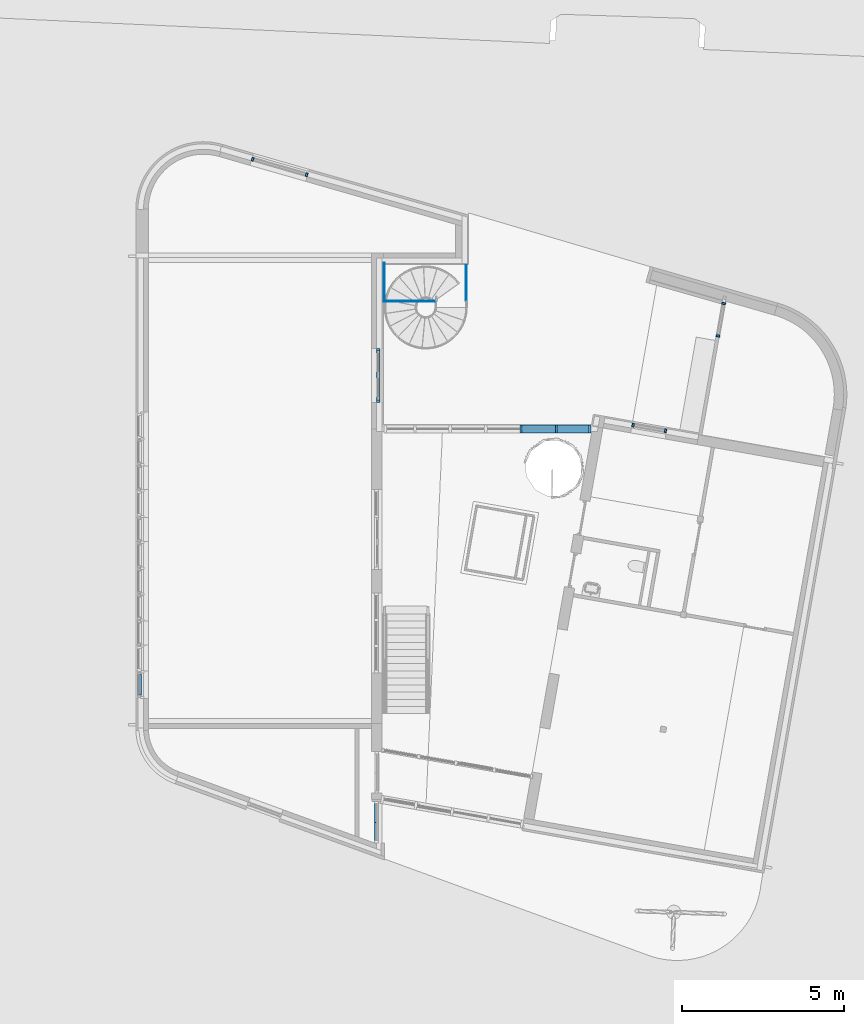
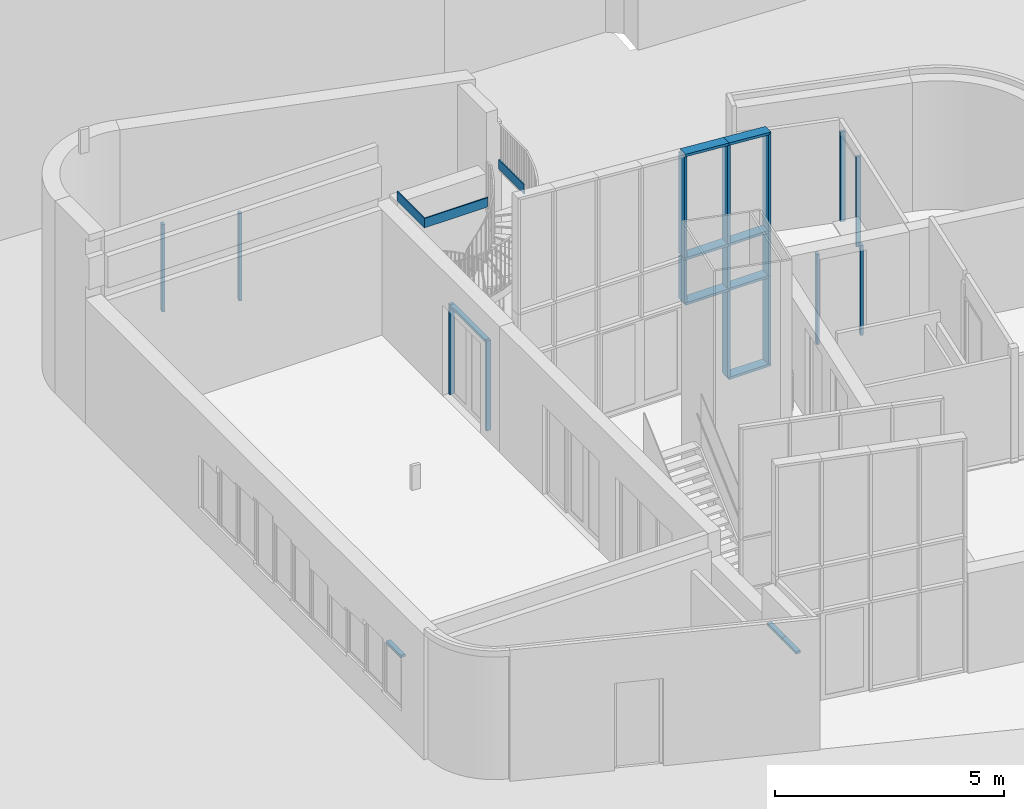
# One storey, part 6 of 21: 30 members, 8 elements without a shape of their own.
"""IFC2X3 building model written with IfcOpenShell, lengths in millimetres."""

from ifc_helpers import new_model, entity, si_unit, converted_unit, derived_unit, direction, frame, frame_2d, origin, origin_2d_with_axis, place, context, subcontext, project, spatial, polyline, rectangle, outline, extrude, clip, halfspace, bounded_halfspace, source, transform, mapped, material, type_object, type_shapes, element, aggregate, save


model = new_model("IFC2X3")

# Units and contexts
model_context = context("Model", 3, precision=0.01, world=origin(), true_north=direction((6.12303176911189e-17, 1.0)))
body_context = subcontext(model_context, "Body", "Model", "MODEL_VIEW")
ifc_project = project(units=[si_unit("LENGTHUNIT", "METRE", prefix="MILLI"), si_unit("AREAUNIT", "SQUARE_METRE"), si_unit("VOLUMEUNIT", "CUBIC_METRE"), converted_unit("PLANEANGLEUNIT", "DEGREE", entity("IfcRatioMeasure", 0.0174532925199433), si_unit("PLANEANGLEUNIT", "RADIAN"), dimensions=[0, 0, 0, 0, 0, 0, 0]), si_unit("MASSUNIT", "GRAM", prefix="KILO"), derived_unit("MASSDENSITYUNIT", [(si_unit("MASSUNIT", "GRAM", prefix="KILO"), 1), (si_unit("LENGTHUNIT", "METRE"), -3)]), derived_unit("MOMENTOFINERTIAUNIT", [(si_unit("LENGTHUNIT", "METRE"), 4)]), si_unit("TIMEUNIT", "SECOND"), si_unit("FREQUENCYUNIT", "HERTZ"), si_unit("THERMODYNAMICTEMPERATUREUNIT", "DEGREE_CELSIUS"), derived_unit("THERMALTRANSMITTANCEUNIT", [(si_unit("MASSUNIT", "GRAM", prefix="KILO"), 1), (si_unit("THERMODYNAMICTEMPERATUREUNIT", "KELVIN"), -1), (si_unit("TIMEUNIT", "SECOND"), -3)]), derived_unit("VOLUMETRICFLOWRATEUNIT", [(si_unit("LENGTHUNIT", "METRE"), 3), (si_unit("TIMEUNIT", "SECOND"), -1)]), si_unit("ELECTRICCURRENTUNIT", "AMPERE"), si_unit("ELECTRICVOLTAGEUNIT", "VOLT"), si_unit("POWERUNIT", "WATT"), si_unit("FORCEUNIT", "NEWTON", prefix="KILO"), si_unit("ILLUMINANCEUNIT", "LUX"), si_unit("LUMINOUSFLUXUNIT", "LUMEN"), si_unit("LUMINOUSINTENSITYUNIT", "CANDELA"), derived_unit("USERDEFINED", [(si_unit("MASSUNIT", "GRAM", prefix="KILO"), -1), (si_unit("LENGTHUNIT", "METRE"), -2), (si_unit("TIMEUNIT", "SECOND"), 3), (si_unit("LUMINOUSFLUXUNIT", "LUMEN"), 1)]), derived_unit("LINEARVELOCITYUNIT", [(si_unit("LENGTHUNIT", "METRE"), 1), (si_unit("TIMEUNIT", "SECOND"), -1)]), si_unit("PRESSUREUNIT", "PASCAL"), derived_unit("USERDEFINED", [(si_unit("LENGTHUNIT", "METRE"), -2), (si_unit("MASSUNIT", "GRAM", prefix="KILO"), 1), (si_unit("TIMEUNIT", "SECOND"), -2)]), derived_unit("LINEARFORCEUNIT", [(si_unit("MASSUNIT", "GRAM", prefix="KILO"), 1), (si_unit("LENGTHUNIT", "METRE"), 1), (si_unit("TIMEUNIT", "SECOND"), -2), (si_unit("LENGTHUNIT", "METRE"), -1)]), derived_unit("PLANARFORCEUNIT", [(si_unit("MASSUNIT", "GRAM", prefix="KILO"), 1), (si_unit("LENGTHUNIT", "METRE"), 1), (si_unit("TIMEUNIT", "SECOND"), -2), (si_unit("LENGTHUNIT", "METRE"), -2)])], contexts=[model_context])

# Site, building, storey
site_placement = place(None, origin())
site = spatial("IfcSite", under=ifc_project, at=site_placement, Name="<Kadaster Gemeente>;<Kadaster nummer>;<Kadaster sectie>", CompositionType="ELEMENT")
building_placement = place(site_placement, origin())
building = spatial("IfcBuilding", under=site, at=building_placement, Name="JRCZ Middelburg", CompositionType="ELEMENT")
storey_placement = place(building_placement, origin())
storey = spatial("IfcBuildingStorey", under=building, at=storey_placement, Name="00 begane grond", CompositionType="ELEMENT", Elevation=0.0)

# Curtain wall, members
curtain_wall_type_1 = type_object("IfcCurtainWallType", Name="Curtain Wall:Vliesgevel C", PredefinedType="NOTDEFINED")
curtain_wall_1_placement = place(storey_placement, origin())
curtain_wall_1 = element("IfcCurtainWall", 1, at=curtain_wall_1_placement, inside=storey, type_object=curtain_wall_type_1, Name="Curtain Wall:Vliesgevel C", ObjectType="Curtain Wall:Vliesgevel C")
ifc_material_1 = material(Name="RBM_a_kozijn licht")
member_type_1 = type_object("IfcMemberType", Name="Rectangular Mullion:31_CWM_067x114 vliesgevel", PredefinedType="MULLION", material=ifc_material_1)
shared_shape_1 = source(origin(), body_context, "Body", "SweptSolid", [
    extrude(rectangle(XDim=250.0, YDim=67.0, at=origin_2d_with_axis()), frame((0.0, -57.0, -2299.5), z_axis=(0.0, 0.0, 1.0), x_axis=(0.0, -1.0, 0.0)), (0.0, 0.0, 1.0), 2299.5),
])
type_shapes(member_type_1, [shared_shape_1])
member_1_placement = place(storey_placement, frame((22765.3380294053, 19046.62338787, 67.0), z_axis=(0.0, 0.0, -1.0), x_axis=(1.0, 0.0, 0.0)))
member_1 = element("IfcMember", 2, at=member_1_placement, type_object=member_type_1, material=ifc_material_1, Name="Rectangular Mullion:31_CWM_067x114 vliesgevel", ObjectType="Rectangular Mullion:31_CWM_067x114 vliesgevel", context=body_context, shape_type="MappedRepresentation", body=[
    mapped(shared_shape_1, transform((0.0, 0.0, 0.0), scale=1.0)),
])
member_type_2 = type_object("IfcMemberType", Name="Rectangular Mullion:31_CWM_067x114 vliesgevel", PredefinedType="MULLION", material=ifc_material_1)
shared_shape_2 = source(origin(), body_context, "Body", "SweptSolid", [
    extrude(rectangle(XDim=250.0, YDim=67.0, at=origin_2d_with_axis()), frame((-33.5, -57.0, -1200.0), z_axis=(0.0, 0.0, 1.0), x_axis=(0.0, -1.0, 0.0)), (0.0, 0.0, 1.0), 1200.0),
])
type_shapes(member_type_2, [shared_shape_2])
member_2_placement = place(storey_placement, frame((23824.9418785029, 19046.62338787, 2400.0), z_axis=(0.0, 0.0, -1.0), x_axis=(1.0, 0.0, 0.0)))
member_2 = element("IfcMember", 3, at=member_2_placement, type_object=member_type_2, material=ifc_material_1, Name="Rectangular Mullion:31_CWM_067x114 vliesgevel", ObjectType="Rectangular Mullion:31_CWM_067x114 vliesgevel", context=body_context, shape_type="MappedRepresentation", body=[
    mapped(shared_shape_2, transform((0.0, 0.0, 0.0), scale=1.0)),
])
member_type_3 = type_object("IfcMemberType", Name="Rectangular Mullion:31_CWM_067x114 vliesgevel", PredefinedType="MULLION", material=ifc_material_1)
shared_shape_3 = source(origin(), body_context, "Body", "SweptSolid", [
    extrude(rectangle(XDim=250.0, YDim=67.0, at=origin_2d_with_axis()), frame((0.0, -57.0, -1133.0), z_axis=(0.0, 0.0, 1.0), x_axis=(0.0, -1.0, 0.0)), (0.0, 0.0, 1.0), 1133.0),
])
type_shapes(member_type_3, [shared_shape_3])
member_3_placement = place(storey_placement, frame((21670.6109307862, 19046.62338787, 2433.5), z_axis=(0.0, 0.0, -1.0), x_axis=(1.0, 0.0, 0.0)))
member_3 = element("IfcMember", 4, at=member_3_placement, type_object=member_type_3, material=ifc_material_1, Name="Rectangular Mullion:31_CWM_067x114 vliesgevel", ObjectType="Rectangular Mullion:31_CWM_067x114 vliesgevel", context=body_context, shape_type="MappedRepresentation", body=[
    mapped(shared_shape_3, transform((0.0, 0.0, 0.0), scale=1.0)),
])
member_4_placement = place(storey_placement, frame((22765.3380294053, 19046.62338787, 2433.5), z_axis=(0.0, 0.0, -1.0), x_axis=(1.0, 0.0, 0.0)))
member_4 = element("IfcMember", 5, at=member_4_placement, type_object=member_type_3, material=ifc_material_1, Name="Rectangular Mullion:31_CWM_067x114 vliesgevel", ObjectType="Rectangular Mullion:31_CWM_067x114 vliesgevel", context=body_context, shape_type="MappedRepresentation", body=[
    mapped(shared_shape_3, transform((0.0, 0.0, 0.0), scale=1.0)),
])

curtain_wall_type_2 = type_object("IfcCurtainWallType", Name="Curtain Wall:NLRS_31_CW_Ontwerpkozijn 067x114", PredefinedType="NOTDEFINED")
curtain_wall_2_placement = place(storey_placement, origin())
curtain_wall_2 = element("IfcCurtainWall", 6, at=curtain_wall_2_placement, inside=storey, type_object=curtain_wall_type_2, Name="Curtain Wall:NLRS_31_CW_Ontwerpkozijn 067x114", ObjectType="Curtain Wall:NLRS_31_CW_Ontwerpkozijn 067x114")
ifc_material_2 = material(Name="RBM_a_kozijn")
member_type_4 = type_object("IfcMemberType", Name="Rectangular Mullion:31_CWM_067x114", PredefinedType="MULLION", material=ifc_material_2)
shared_shape_4 = source(origin(), body_context, "Body", "SweptSolid", [
    extrude(rectangle(XDim=113.999999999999, YDim=67.0, at=origin_2d_with_axis()), frame((-33.5, -57.0, -1533.0), z_axis=(0.0, 0.0, 1.0), x_axis=(0.0, -1.0, 0.0)), (0.0, 0.0, 1.0), 1533.0),
])
type_shapes(member_type_4, [shared_shape_4])
member_5_placement = place(storey_placement, frame((17200.0, 19997.0106983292, 2400.0), z_axis=(0.0, -1.0, 0.0), x_axis=(0.0, 0.0, 1.0)))
member_5 = element("IfcMember", 7, at=member_5_placement, type_object=member_type_4, material=ifc_material_2, Name="Rectangular Mullion:31_CWM_067x114", ObjectType="Rectangular Mullion:31_CWM_067x114", context=body_context, shape_type="MappedRepresentation", body=[
    mapped(shared_shape_4, transform((0.0, 0.0, 0.0), scale=1.0)),
])
member_type_5 = type_object("IfcMemberType", Name="Rectangular Mullion:31_CWM_067x114", PredefinedType="MULLION", material=ifc_material_2)
shared_shape_5 = source(origin(), body_context, "Body", "SweptSolid", [
    extrude(rectangle(XDim=113.999999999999, YDim=67.0, at=frame_2d((1.06581410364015e-14, 0.0), x_axis=(1.0, 0.0))), frame((-33.5, -57.0, -2400.0), z_axis=(0.0, 0.0, 1.0), x_axis=(0.0, -1.0, 0.0)), (0.0, 0.0, 1.0), 2400.0),
])
type_shapes(member_type_5, [shared_shape_5])
member_6_placement = place(storey_placement, frame((17200.0, 19930.0106983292, 0.0), z_axis=(0.0, 0.0, -1.0), x_axis=(0.0, -1.0, 0.0)))
member_6 = element("IfcMember", 8, at=member_6_placement, type_object=member_type_5, material=ifc_material_2, Name="Rectangular Mullion:31_CWM_067x114", ObjectType="Rectangular Mullion:31_CWM_067x114", context=body_context, shape_type="MappedRepresentation", body=[
    mapped(shared_shape_5, transform((0.0, 0.0, 0.0), scale=1.0)),
])
member_type_6 = type_object("IfcMemberType", Name="Rectangular Mullion:31_CWM_067x114", PredefinedType="MULLION", material=ifc_material_2)
shared_shape_6 = source(origin(), body_context, "Body", "SweptSolid", [
    extrude(rectangle(XDim=113.999999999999, YDim=67.0, at=frame_2d((1.06581410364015e-14, 0.0), x_axis=(1.0, 0.0))), frame((-33.5, -57.0, -2400.0), z_axis=(0.0, 0.0, 1.0), x_axis=(0.0, -1.0, 0.0)), (0.0, 0.0, 1.0), 2400.0),
])
type_shapes(member_type_6, [shared_shape_6])
member_7_placement = place(storey_placement, frame((17200.0, 21597.0106983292, 2400.0), z_axis=(0.0, 0.0, 1.0), x_axis=(0.0, 1.0, 0.0)))
member_7 = element("IfcMember", 9, at=member_7_placement, type_object=member_type_6, material=ifc_material_2, Name="Rectangular Mullion:31_CWM_067x114", ObjectType="Rectangular Mullion:31_CWM_067x114", context=body_context, shape_type="MappedRepresentation", body=[
    mapped(shared_shape_6, transform((0.0, 0.0, 0.0), scale=1.0)),
])
aggregate(curtain_wall_2, [member_5, member_6, member_7])

curtain_wall_type_3 = type_object("IfcCurtainWallType", Name="Curtain Wall:NLRS_32_CW_067x114", PredefinedType="NOTDEFINED")
curtain_wall_3_placement = place(storey_placement, origin())
curtain_wall_3 = element("IfcCurtainWall", 10, at=curtain_wall_3_placement, inside=storey, type_object=curtain_wall_type_3, Name="Curtain Wall:NLRS_32_CW_067x114", ObjectType="Curtain Wall:NLRS_32_CW_067x114")
ifc_material_3 = material(Name="RBM_i2_binnenkozijn")
member_type_7 = type_object("IfcMemberType", Name="Rectangular Mullion:32_CWM_067x114", PredefinedType="MULLION", material=ifc_material_3)
shared_shape_7 = source(origin(), body_context, "Body", "SweptSolid", [
    extrude(rectangle(XDim=113.999999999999, YDim=67.0, at=origin_2d_with_axis()), frame((-33.5, 0.0, -655.450461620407), z_axis=(0.0, 0.0, 1.0), x_axis=(0.0, -1.0, 0.0)), (0.0, 0.0, 1.0), 655.450461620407),
])
type_shapes(member_type_7, [shared_shape_7])
member_8_placement = place(storey_placement, frame((17200.0, 7591.96216345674, 2400.0), z_axis=(0.0, 1.0, 0.0), x_axis=(0.0, 0.0, 1.0)))
member_8 = element("IfcMember", 11, at=member_8_placement, type_object=member_type_7, material=ifc_material_3, Name="Rectangular Mullion:32_CWM_067x114", ObjectType="Rectangular Mullion:32_CWM_067x114", context=body_context, shape_type="MappedRepresentation", body=[
    mapped(shared_shape_7, transform((0.0, 0.0, 0.0), scale=1.0)),
])
member_type_8 = type_object("IfcMemberType", Name="Rectangular Mullion:32_CWM_067x114", PredefinedType="MULLION", material=ifc_material_3)
shared_shape_8 = source(origin(), body_context, "Body", "SweptSolid", [
    extrude(rectangle(XDim=113.999999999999, YDim=67.0, at=origin_2d_with_axis()), frame((-33.5, 0.0, -624.549538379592), z_axis=(0.0, 0.0, 1.0), x_axis=(0.0, -1.0, 0.0)), (0.0, 0.0, 1.0), 624.549538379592),
])
type_shapes(member_type_8, [shared_shape_8])
member_9_placement = place(storey_placement, frame((17200.0, 6936.51170183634, 2400.0), z_axis=(0.0, 1.0, 0.0), x_axis=(0.0, 0.0, 1.0)))
member_9 = element("IfcMember", 12, at=member_9_placement, type_object=member_type_8, material=ifc_material_3, Name="Rectangular Mullion:32_CWM_067x114", ObjectType="Rectangular Mullion:32_CWM_067x114", context=body_context, shape_type="MappedRepresentation", body=[
    mapped(shared_shape_8, transform((0.0, 0.0, 0.0), scale=1.0)),
])
aggregate(curtain_wall_3, [member_8, member_9])

curtain_wall_4_placement = place(storey_placement, origin())
curtain_wall_4 = element("IfcCurtainWall", 13, at=curtain_wall_4_placement, inside=storey, type_object=curtain_wall_type_2, Name="Curtain Wall:NLRS_31_CW_Ontwerpkozijn 067x114", ObjectType="Curtain Wall:NLRS_31_CW_Ontwerpkozijn 067x114")
member_type_9 = type_object("IfcMemberType", Name="Rectangular Mullion:31_CWM_067x114", PredefinedType="MULLION", material=ifc_material_2)
shared_shape_9 = source(origin(), body_context, "Body", "SweptSolid", [
    extrude(rectangle(XDim=113.999999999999, YDim=67.0, at=frame_2d((1.06581410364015e-14, 0.0), x_axis=(1.0, 0.0))), frame((-33.5, -57.0, -2333.0), z_axis=(0.0, 0.0, 1.0), x_axis=(0.0, -1.0, 0.0)), (0.0, 0.0, 1.0), 2333.0),
])
type_shapes(member_type_9, [shared_shape_9])
member_10_placement = place(storey_placement, frame((15057.0718816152, 26902.0542574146, 0.0), z_axis=(0.0, 0.0, -1.0), x_axis=(0.961261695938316, -0.27563735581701, 0.0)))
member_10 = element("IfcMember", 14, at=member_10_placement, type_object=member_type_9, material=ifc_material_2, Name="Rectangular Mullion:31_CWM_067x114", ObjectType="Rectangular Mullion:31_CWM_067x114", context=body_context, shape_type="MappedRepresentation", body=[
    mapped(shared_shape_9, transform((0.0, 0.0, 0.0), scale=1.0)),
])
member_type_10 = type_object("IfcMemberType", Name="Rectangular Mullion:31_CWM_067x114", PredefinedType="MULLION", material=ifc_material_2)
shared_shape_10 = source(origin(), body_context, "Body", "SweptSolid", [
    extrude(rectangle(XDim=113.999999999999, YDim=67.0, at=origin_2d_with_axis()), frame((-33.5, -57.0, -2333.0), z_axis=(0.0, 0.0, 1.0), x_axis=(0.0, -1.0, 0.0)), (0.0, 0.0, 1.0), 2333.0),
])
type_shapes(member_type_10, [shared_shape_10])
member_11_placement = place(storey_placement, frame((13326.8008289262, 27398.2014978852, 2333.0), z_axis=(0.0, 0.0, 1.0), x_axis=(-0.961261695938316, 0.27563735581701, 0.0)))
member_11 = element("IfcMember", 15, at=member_11_placement, type_object=member_type_10, material=ifc_material_2, Name="Rectangular Mullion:31_CWM_067x114", ObjectType="Rectangular Mullion:31_CWM_067x114", context=body_context, shape_type="MappedRepresentation", body=[
    mapped(shared_shape_10, transform((0.0, 0.0, 0.0), scale=1.0)),
])
aggregate(curtain_wall_4, [member_10, member_11])

# Stair, members
stair_placement = place(storey_placement, origin())
stair = element("IfcStair", 16, at=stair_placement, inside=storey, Name="Assembled Stair:Stair", ObjectType="Assembled Stair:Vluchttrap", ShapeType="SPIRAL_STAIR")
ifc_material_4 = material(Name="<Unnamed>")
member_type_11 = type_object("IfcMemberType", Name="Stringer:Stringer - vluchttrap", PredefinedType="STRINGER")
member_12_placement = place(stair_placement, origin())
member_12 = element("IfcMember", 17, at=member_12_placement, type_object=member_type_11, material=ifc_material_4, Name="Assembled Stair:Stair:2451970 Stringer 4", ObjectType="Stringer:Stringer - vluchttrap", context=body_context, shape_type="SweptSolid", body=[
    extrude(outline(polyline([(-595.593929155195, -15.0), (610.593929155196, -15.0), (580.593929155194, 15.0), (-595.593929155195, 15.0), (-595.593929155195, -15.0)])), frame((17447.0, 23654.4060708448, 3450.0), z_axis=(0.0, 0.0, 1.0), x_axis=(0.0, -1.0, 0.0)), (0.0, 0.0, 1.0), 250.0),
])
member_13_placement = place(stair_placement, origin())
member_13 = element("IfcMember", 18, at=member_13_placement, type_object=member_type_11, material=ifc_material_4, Name="Assembled Stair:Stair:2451970 Stringer 5", ObjectType="Stringer:Stringer - vluchttrap", context=body_context, shape_type="SweptSolid", body=[
    extrude(outline(polyline([(-812.834802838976, -15.0), (782.834802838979, -15.0), (812.834802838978, 15.0), (-782.834802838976, 15.0), (-812.834802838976, -15.0)])), frame((18244.8348028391, 23058.8121416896, 3450.0)), (0.0, 0.0, 1.0), 250.0),
])
member_14_placement = place(stair_placement, origin())
member_14 = element("IfcMember", 19, at=member_14_placement, type_object=member_type_11, material=ifc_material_4, Name="Assembled Stair:Stair:2451970 Stringer 7", ObjectType="Stringer:Stringer - vluchttrap", context=body_context, shape_type="SweptSolid", body=[
    extrude(rectangle(XDim=1110.18785831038, YDim=30.0000000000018, at=frame_2d((2.1600499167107e-12, 0.0), x_axis=(1.0, 0.0))), frame((19972.6696056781, 23628.9060708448, 3450.0), z_axis=(0.0, 0.0, 1.0), x_axis=(0.0, 1.0, 0.0)), (0.0, 0.0, 1.0), 250.0),
])
aggregate(stair, [member_12, member_13, member_14])

# Curtain wall, member
curtain_wall_type_4 = type_object("IfcCurtainWallType", Name="Curtain Wall:NLRS_31_CW_Ontwerpkozijn 067x114 2", PredefinedType="NOTDEFINED")
curtain_wall_5_placement = place(storey_placement, origin())
curtain_wall_5 = element("IfcCurtainWall", 20, at=curtain_wall_5_placement, inside=storey, type_object=curtain_wall_type_4, Name="Curtain Wall:NLRS_31_CW_Ontwerpkozijn 067x114 2", ObjectType="Curtain Wall:NLRS_31_CW_Ontwerpkozijn 067x114 2")
member_type_12 = type_object("IfcMemberType", Name="Rectangular Mullion:31_CWM_067x114", PredefinedType="MULLION", material=ifc_material_2)
shared_shape_11 = source(origin(), body_context, "Body", "SweptSolid", [
    extrude(rectangle(XDim=113.999999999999, YDim=67.0, at=origin_2d_with_axis()), frame((-33.5, 57.0, -641.0), z_axis=(0.0, 0.0, 1.0), x_axis=(0.0, -1.0, 0.0)), (0.0, 0.0, 1.0), 640.999999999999),
])
type_shapes(member_type_12, [shared_shape_11])
member_15_placement = place(storey_placement, frame((9931.0, 10879.4999999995, 2100.0), z_axis=(0.0, -1.0, 0.0), x_axis=(0.0, 0.0, 1.0)))
member_15 = element("IfcMember", 21, at=member_15_placement, type_object=member_type_12, material=ifc_material_2, Name="Rectangular Mullion:31_CWM_067x114", ObjectType="Rectangular Mullion:31_CWM_067x114", context=body_context, shape_type="MappedRepresentation", body=[
    mapped(shared_shape_11, transform((0.0, 0.0, 0.0), scale=1.0)),
])
aggregate(curtain_wall_5, [member_15])

# Member
member_type_13 = type_object("IfcMemberType", Name="Rectangular Mullion:31_CWM_067x114 vliesgevel", PredefinedType="MULLION", material=ifc_material_1)
shared_shape_12 = source(origin(), body_context, "Body", "SweptSolid", [
    extrude(rectangle(XDim=250.0, YDim=67.0, at=origin_2d_with_axis()), frame((-33.5, -57.0, -2333.0), z_axis=(0.0, 0.0, 1.0), x_axis=(0.0, -1.0, 0.0)), (0.0, 0.0, 1.0), 2333.0),
])
type_shapes(member_type_13, [shared_shape_12])
member_16_placement = place(storey_placement, frame((23824.9418785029, 19046.62338787, 67.0), z_axis=(0.0, 0.0, -1.0), x_axis=(1.0, 0.0, 0.0)))
member_16 = element("IfcMember", 22, at=member_16_placement, type_object=member_type_13, material=ifc_material_1, Name="Rectangular Mullion:31_CWM_067x114 vliesgevel", ObjectType="Rectangular Mullion:31_CWM_067x114 vliesgevel", context=body_context, shape_type="MappedRepresentation", body=[
    mapped(shared_shape_12, transform((0.0, 0.0, 0.0), scale=1.0)),
])

member_type_14 = type_object("IfcMemberType", Name="Rectangular Mullion:31_CWM_067x114 vliesgevel", PredefinedType="MULLION", material=ifc_material_1)
shared_shape_13 = source(origin(), body_context, "Body", "SweptSolid", [
    extrude(rectangle(XDim=250.0, YDim=67.0, at=origin_2d_with_axis()), frame((-33.5, -57.0, -1059.60384909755), z_axis=(0.0, 0.0, 1.0), x_axis=(0.0, -1.0, 0.0)), (0.0, 0.0, 1.0), 1059.60384909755),
])
type_shapes(member_type_14, [shared_shape_13])
member_17_placement = place(storey_placement, frame((22765.3380294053, 19046.62338787, 0.0), z_axis=(-1.0, 0.0, 0.0), x_axis=(0.0, 0.0, -1.0)))
member_17 = element("IfcMember", 23, at=member_17_placement, type_object=member_type_14, material=ifc_material_1, Name="Rectangular Mullion:31_CWM_067x114 vliesgevel", ObjectType="Rectangular Mullion:31_CWM_067x114 vliesgevel", context=body_context, shape_type="MappedRepresentation", body=[
    mapped(shared_shape_13, transform((0.0, 0.0, 0.0), scale=1.0)),
])

member_type_15 = type_object("IfcMemberType", Name="Rectangular Mullion:31_CWM_067x114 vliesgevel", PredefinedType="MULLION", material=ifc_material_1)
shared_shape_14 = source(origin(), body_context, "Body", "SweptSolid", [
    extrude(rectangle(XDim=250.0, YDim=67.0, at=origin_2d_with_axis()), frame((0.0, -57.0, -1094.72709861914), z_axis=(0.0, 0.0, 1.0), x_axis=(0.0, -1.0, 0.0)), (0.0, 0.0, 1.0), 1094.72709861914),
])
type_shapes(member_type_15, [shared_shape_14])
member_18_placement = place(storey_placement, frame((22765.3380294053, 19046.62338787, 2400.0), z_axis=(1.0, 0.0, 0.0), x_axis=(0.0, 0.0, 1.0)))
member_18 = element("IfcMember", 24, at=member_18_placement, type_object=member_type_15, material=ifc_material_1, Name="Rectangular Mullion:31_CWM_067x114 vliesgevel", ObjectType="Rectangular Mullion:31_CWM_067x114 vliesgevel", context=body_context, shape_type="MappedRepresentation", body=[
    mapped(shared_shape_14, transform((0.0, 0.0, 0.0), scale=1.0)),
])

member_19_placement = place(storey_placement, frame((22765.3380294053, 19046.62338787, 3600.0), z_axis=(1.0, 0.0, 0.0), x_axis=(0.0, 0.0, 1.0)))
member_19 = element("IfcMember", 25, at=member_19_placement, type_object=member_type_15, material=ifc_material_1, Name="Rectangular Mullion:31_CWM_067x114 vliesgevel", ObjectType="Rectangular Mullion:31_CWM_067x114 vliesgevel", context=body_context, shape_type="MappedRepresentation", body=[
    mapped(shared_shape_14, transform((0.0, 0.0, 0.0), scale=1.0)),
])

member_type_16 = type_object("IfcMemberType", Name="Rectangular Mullion:31_CWM_067x114 vliesgevel", PredefinedType="MULLION", material=ifc_material_1)
shared_shape_15 = source(origin(), body_context, "Body", "SweptSolid", [
    extrude(rectangle(XDim=250.0, YDim=67.0, at=origin_2d_with_axis()), frame((0.0, -57.0, -992.603849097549), z_axis=(0.0, 0.0, 1.0), x_axis=(0.0, -1.0, 0.0)), (0.0, 0.0, 1.0), 992.603849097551),
])
type_shapes(member_type_16, [shared_shape_15])
member_20_placement = place(storey_placement, frame((23757.9418785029, 19046.62338787, 2400.0), z_axis=(1.0, 0.0, 0.0), x_axis=(0.0, 0.0, 1.0)))
member_20 = element("IfcMember", 26, at=member_20_placement, type_object=member_type_16, material=ifc_material_1, Name="Rectangular Mullion:31_CWM_067x114 vliesgevel", ObjectType="Rectangular Mullion:31_CWM_067x114 vliesgevel", context=body_context, shape_type="MappedRepresentation", body=[
    mapped(shared_shape_15, transform((0.0, 0.0, 0.0), scale=1.0)),
])

member_21_placement = place(storey_placement, frame((23757.9418785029, 19046.62338787, 3600.0), z_axis=(1.0, 0.0, 0.0), x_axis=(0.0, 0.0, 1.0)))
member_21 = element("IfcMember", 27, at=member_21_placement, type_object=member_type_16, material=ifc_material_1, Name="Rectangular Mullion:31_CWM_067x114 vliesgevel", ObjectType="Rectangular Mullion:31_CWM_067x114 vliesgevel", context=body_context, shape_type="MappedRepresentation", body=[
    mapped(shared_shape_15, transform((0.0, 0.0, 0.0), scale=1.0)),
])

member_type_17 = type_object("IfcMemberType", Name="Rectangular Mullion:31_CWM_067x114 vliesgevel", PredefinedType="MULLION", material=ifc_material_1)
shared_shape_16 = source(origin(), body_context, "Body", "Clipping", [
    clip(extrude(rectangle(XDim=250.0, YDim=67.0, at=origin_2d_with_axis()), frame((-33.5, -57.0, -2635.22294626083), z_axis=(0.0, 0.0, 1.0), x_axis=(0.0, -1.0, 0.0)), (0.0, 0.0, 1.0), 2635.22294626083), halfspace(frame((0.0, -304.8, -2635.22294626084), z_axis=(-0.680565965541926, 0.0, -0.732686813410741), x_axis=(-0.732686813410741, 0.0, 0.680565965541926)), False)),
])
type_shapes(member_type_17, [shared_shape_16])
member_22_placement = place(storey_placement, frame((23824.9418785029, 19046.62338787, 3600.0), z_axis=(0.0, 0.0, -1.0), x_axis=(1.0, 0.0, 0.0)))
member_22 = element("IfcMember", 28, at=member_22_placement, type_object=member_type_17, material=ifc_material_1, Name="Rectangular Mullion:31_CWM_067x114 vliesgevel", ObjectType="Rectangular Mullion:31_CWM_067x114 vliesgevel", context=body_context, shape_type="MappedRepresentation", body=[
    mapped(shared_shape_16, transform((0.0, 0.0, 0.0), scale=1.0)),
])

member_type_18 = type_object("IfcMemberType", Name="Rectangular Mullion:31_CWM_067x114 vliesgevel", PredefinedType="MULLION", material=ifc_material_1)
shared_shape_17 = source(origin(), body_context, "Body", "Clipping", [
    clip(clip(extrude(rectangle(XDim=250.0, YDim=67.0, at=origin_2d_with_axis()), frame((0.0, -57.0, -2696.13490538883), z_axis=(0.0, 0.0, 1.0), x_axis=(0.0, -1.0, 0.0)), (0.0, 0.0, 1.0), 2696.13490538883), bounded_halfspace(frame((-4.93521551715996, 68.0, -2694.02509379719), z_axis=(0.0736599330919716, 0.0, -0.997283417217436), x_axis=(-0.997283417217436, 0.0, -0.0736599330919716)), False, frame((0.0, -57.0, -2696.13490538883), z_axis=(0.0, 0.0, 1.0), x_axis=(0.0, -1.0, 0.0)), polyline([(125.0, -4.93521551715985), (125.0, -33.5), (-125.0, -33.5), (-125.0, -4.93521551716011), (125.0, -4.93521551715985)]))), bounded_halfspace(frame((1089.79188310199, 68.0, -2613.16791373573), z_axis=(0.0736599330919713, 0.0, -0.997283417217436), x_axis=(-0.997283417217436, 0.0, -0.0736599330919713)), False, frame((0.0, -57.0, -2696.13490538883), z_axis=(0.0, 0.0, 1.0), x_axis=(0.0, -1.0, 0.0)), polyline([(-125.0, 33.5), (125.0, 33.5), (125.0, -4.93521551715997), (-125.0, -4.93521551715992), (-125.0, 33.5)]))),
])
type_shapes(member_type_18, [shared_shape_17])
member_23_placement = place(storey_placement, frame((21670.6109307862, 19046.62338787, 3633.5), z_axis=(0.0, 0.0, -1.0), x_axis=(1.0, 0.0, 0.0)))
member_23 = element("IfcMember", 29, at=member_23_placement, type_object=member_type_18, material=ifc_material_1, Name="Rectangular Mullion:31_CWM_067x114 vliesgevel", ObjectType="Rectangular Mullion:31_CWM_067x114 vliesgevel", context=body_context, shape_type="MappedRepresentation", body=[
    mapped(shared_shape_17, transform((0.0, 0.0, 0.0), scale=1.0)),
])

member_type_19 = type_object("IfcMemberType", Name="Rectangular Mullion:31_CWM_067x114 vliesgevel", PredefinedType="MULLION", material=ifc_material_1)
shared_shape_18 = source(origin(), body_context, "Body", "Clipping", [
    clip(clip(extrude(rectangle(XDim=250.0, YDim=67.0, at=origin_2d_with_axis()), frame((0.0, -57.0, -2615.27772532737), z_axis=(0.0, 0.0, 1.0), x_axis=(0.0, -1.0, 0.0)), (0.0, 0.0, 1.0), 2615.27772532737), bounded_halfspace(frame((-4.93521551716, 68.0, -2613.16791373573), z_axis=(0.0736599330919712, 0.0, -0.997283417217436), x_axis=(-0.997283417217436, 0.0, -0.0736599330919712)), False, frame((0.0, -57.0, -2615.27772532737), z_axis=(0.0, 0.0, 1.0), x_axis=(0.0, -1.0, 0.0)), polyline([(125.0, -4.93521551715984), (125.0, -33.5), (-125.0, -33.5), (-125.0, -4.93521551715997), (125.0, -4.93521551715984)]))), bounded_halfspace(frame((1054.66863358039, 68.0, -2534.90495730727), z_axis=(0.0736599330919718, 0.0, -0.997283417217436), x_axis=(-0.997283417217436, 0.0, -0.0736599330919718)), False, frame((0.0, -57.0, -2615.27772532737), z_axis=(0.0, 0.0, 1.0), x_axis=(0.0, -1.0, 0.0)), polyline([(-125.0, 33.5), (125.0, 33.5), (125.0, -4.93521551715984), (-125.0, -4.93521551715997), (-125.0, 33.5)]))),
])
type_shapes(member_type_19, [shared_shape_18])
member_24_placement = place(storey_placement, frame((22765.3380294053, 19046.62338787, 3633.5), z_axis=(0.0, 0.0, -1.0), x_axis=(1.0, 0.0, 0.0)))
member_24 = element("IfcMember", 30, at=member_24_placement, type_object=member_type_19, material=ifc_material_1, Name="Rectangular Mullion:31_CWM_067x114 vliesgevel", ObjectType="Rectangular Mullion:31_CWM_067x114 vliesgevel", context=body_context, shape_type="MappedRepresentation", body=[
    mapped(shared_shape_18, transform((0.0, 0.0, 0.0), scale=1.0)),
])

member_type_20 = type_object("IfcMemberType", Name="Rectangular Mullion:31_CWM_067x114 vliesgevel", PredefinedType="MULLION", material=ifc_material_1)
shared_shape_19 = source(origin(), body_context, "Body", "Clipping", [
    clip(extrude(rectangle(XDim=250.0, YDim=67.0, at=origin_2d_with_axis()), frame((-33.5, -57.0, -1062.49019165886), z_axis=(0.0, 0.0, 1.0), x_axis=(0.0, -1.0, 0.0)), (0.0, 0.0, 1.0), 1062.49019165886), halfspace(frame((0.0, -304.8, 0.0), z_axis=(-0.680565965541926, 0.0, 0.732686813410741), x_axis=(-0.732686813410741, 0.0, -0.680565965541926)), False)),
])
type_shapes(member_type_20, [shared_shape_19])
member_25_placement = place(storey_placement, frame((23824.9418785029, 19046.62338787, 6235.22294626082), z_axis=(0.997283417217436, 0.0, -0.0736599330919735), x_axis=(0.0736599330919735, 0.0, 0.997283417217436)))
member_25 = element("IfcMember", 31, at=member_25_placement, type_object=member_type_20, material=ifc_material_1, Name="Rectangular Mullion:31_CWM_067x114 vliesgevel", ObjectType="Rectangular Mullion:31_CWM_067x114 vliesgevel", context=body_context, shape_type="MappedRepresentation", body=[
    mapped(shared_shape_19, transform((0.0, 0.0, 0.0), scale=1.0)),
])

member_type_21 = type_object("IfcMemberType", Name="Rectangular Mullion:31_CWM_067x114 vliesgevel", PredefinedType="MULLION", material=ifc_material_1)
shared_shape_20 = source(origin(), body_context, "Body", "SweptSolid", [
    extrude(rectangle(XDim=250.0, YDim=67.0, at=origin_2d_with_axis()), frame((-33.5, -57.0, -1097.70911630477), z_axis=(0.0, 0.0, 1.0), x_axis=(0.0, -1.0, 0.0)), (0.0, 0.0, 1.0), 1097.70911630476),
])
type_shapes(member_type_21, [shared_shape_20])
member_26_placement = place(storey_placement, frame((22765.3380294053, 19046.62338787, 6313.48590268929), z_axis=(0.997283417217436, 0.0, -0.0736599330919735), x_axis=(0.0736599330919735, 0.0, 0.997283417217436)))
member_26 = element("IfcMember", 32, at=member_26_placement, type_object=member_type_21, material=ifc_material_1, Name="Rectangular Mullion:31_CWM_067x114 vliesgevel", ObjectType="Rectangular Mullion:31_CWM_067x114 vliesgevel", context=body_context, shape_type="MappedRepresentation", body=[
    mapped(shared_shape_20, transform((0.0, 0.0, 0.0), scale=1.0)),
])

aggregate(curtain_wall_1, [member_16, member_17, member_1, member_2, member_18, member_20, member_3, member_4, member_22, member_19, member_21, member_23, member_24, member_25, member_26])

# Curtain wall, member
curtain_wall_6_placement = place(storey_placement, origin())
curtain_wall_6 = element("IfcCurtainWall", 33, at=curtain_wall_6_placement, inside=storey, type_object=curtain_wall_type_2, Name="Curtain Wall:NLRS_31_CW_Ontwerpkozijn 067x114", ObjectType="Curtain Wall:NLRS_31_CW_Ontwerpkozijn 067x114")
member_type_22 = type_object("IfcMemberType", Name="Rectangular Mullion:31_CWM_067x114", PredefinedType="MULLION", material=ifc_material_2)
shared_shape_21 = source(origin(), body_context, "Body", "SweptSolid", [
    extrude(rectangle(XDim=113.999999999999, YDim=67.0, at=origin_2d_with_axis()), frame((-33.5, 57.0, -2400.0), z_axis=(0.0, 0.0, 1.0), x_axis=(0.0, -1.0, 0.0)), (0.0, 0.0, 1.0), 2400.0),
])
type_shapes(member_type_22, [shared_shape_21])
member_27_placement = place(storey_placement, frame((25089.8875728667, 19175.3638568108, 0.0), z_axis=(0.0, 0.0, -1.0), x_axis=(-0.984807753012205, 0.173648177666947, 0.0)))
member_27 = element("IfcMember", 34, at=member_27_placement, type_object=member_type_22, material=ifc_material_2, Name="Rectangular Mullion:31_CWM_067x114", ObjectType="Rectangular Mullion:31_CWM_067x114", context=body_context, shape_type="MappedRepresentation", body=[
    mapped(shared_shape_21, transform((0.0, 0.0, 0.0), scale=1.0)),
])

curtain_wall_7_placement = place(storey_placement, origin())
curtain_wall_7 = element("IfcCurtainWall", 35, at=curtain_wall_7_placement, inside=storey, type_object=curtain_wall_type_2, Name="Curtain Wall:NLRS_31_CW_Ontwerpkozijn 067x114", ObjectType="Curtain Wall:NLRS_31_CW_Ontwerpkozijn 067x114")
member_28_placement = place(storey_placement, frame((27806.1716918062, 21939.3783508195, 0.0), z_axis=(0.0, 0.0, -1.0), x_axis=(-0.17364817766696, -0.984807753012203, 0.0)))
member_28 = element("IfcMember", 36, at=member_28_placement, type_object=member_type_22, material=ifc_material_2, Name="Rectangular Mullion:31_CWM_067x114", ObjectType="Rectangular Mullion:31_CWM_067x114", context=body_context, shape_type="MappedRepresentation", body=[
    mapped(shared_shape_21, transform((0.0, 0.0, 0.0), scale=1.0)),
])

# Member
member_type_23 = type_object("IfcMemberType", Name="Rectangular Mullion:31_CWM_067x114", PredefinedType="MULLION", material=ifc_material_2)
shared_shape_22 = source(origin(), body_context, "Body", "SweptSolid", [
    extrude(rectangle(XDim=113.999999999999, YDim=67.0, at=origin_2d_with_axis()), frame((-33.5, 57.0, -2400.0), z_axis=(0.0, 0.0, 1.0), x_axis=(0.0, -1.0, 0.0)), (0.0, 0.0, 1.0), 2400.0),
])
type_shapes(member_type_23, [shared_shape_22])
member_29_placement = place(storey_placement, frame((26157.419177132, 18987.1292322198, 2400.0), z_axis=(0.0, 0.0, 1.0), x_axis=(0.984807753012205, -0.173648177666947, 0.0)))
member_29 = element("IfcMember", 37, at=member_29_placement, type_object=member_type_23, material=ifc_material_2, Name="Rectangular Mullion:31_CWM_067x114", ObjectType="Rectangular Mullion:31_CWM_067x114", context=body_context, shape_type="MappedRepresentation", body=[
    mapped(shared_shape_22, transform((0.0, 0.0, 0.0), scale=1.0)),
])

aggregate(curtain_wall_6, [member_27, member_29])

member_30_placement = place(storey_placement, frame((27994.4063163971, 23006.9099550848, 2400.0), z_axis=(0.0, 0.0, 1.0), x_axis=(0.17364817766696, 0.984807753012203, 0.0)))
member_30 = element("IfcMember", 38, at=member_30_placement, type_object=member_type_23, material=ifc_material_2, Name="Rectangular Mullion:31_CWM_067x114", ObjectType="Rectangular Mullion:31_CWM_067x114", context=body_context, shape_type="MappedRepresentation", body=[
    mapped(shared_shape_22, transform((0.0, 0.0, 0.0), scale=1.0)),
])

aggregate(curtain_wall_7, [member_28, member_30])

save(model, "model.ifc")
